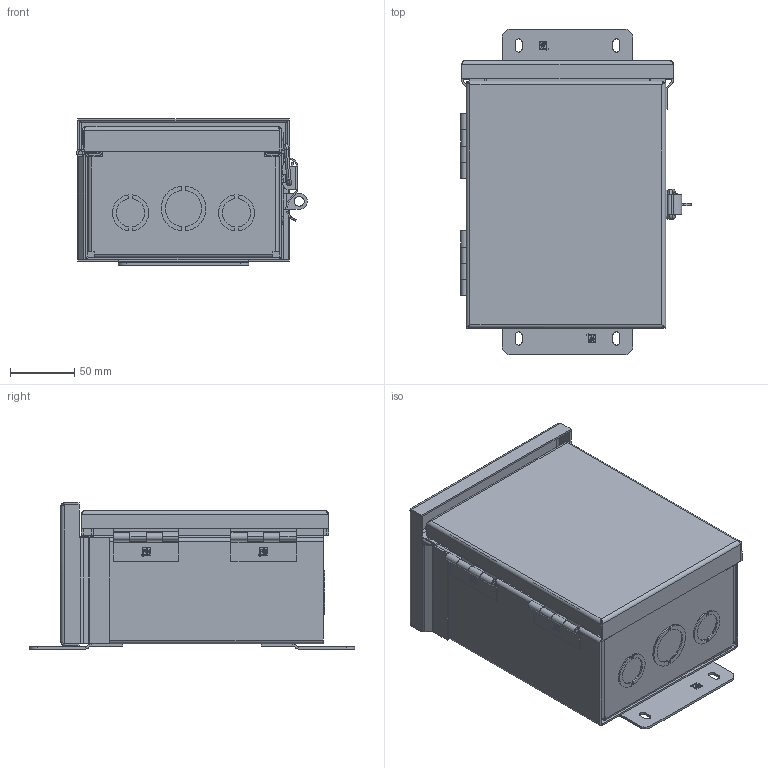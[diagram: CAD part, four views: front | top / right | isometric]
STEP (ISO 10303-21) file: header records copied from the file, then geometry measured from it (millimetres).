
FILE_DESCRIPTION (( 'STEP AP203' ), '1' );
FILE_NAME ('a8r64hcr.STEP', '2012-01-31T20:31:11', ( 'Hoffman User' ), ( 'Hoffman Enclosures' ), 'SwSTEP 2.0', 'SolidWorks 2010', '' );
FILE_SCHEMA (( 'CONFIG_CONTROL_DESIGN' ));
Length unit declared in the file: inch
Products named in the file (19): 89049555; 89049554; 89049553; 66162003; 54106001; 43107001; 43110001; 66162007; 89049480; 89049479; 89049478_89047041; 43108001_CLOSE; 43372002; 89051783_Closed; 87921482; 43373001; 43374002; 89055726_Closed; a8r64hcr
Assembly tree (23 placements, depth 5):
  a8r64hcr
    89055726_Closed
      43107001  x2
      43373001
      54106001  x4
      43110001
      89051783_Closed
        66162007
        43108001_CLOSE  x2
          89049480
          89049478_89047041
          89049479
        43372002
      87921482
      43374002
      66162003
        89049553
        89049554
        89049555
Bounding box: 179.83 x 253.87 x 114.07 mm (x, y, z)
Volume: 280641.6 mm3; surface area: 400834.2 mm2
Topology: 21 solids, 21 shells, 1148 faces, 2764 edges, 1722 vertices
Faces by surface type: plane 607, bspline 221, cylinder 220, sphere 44, torus 32, cone 24
Entity records: 30069 total; most frequent: CARTESIAN_POINT 9728, ORIENTED_EDGE 3860, DIRECTION 3514, EDGE_CURVE 1930, LINE 1238, VECTOR 1238, VERTEX_POINT 1180, AXIS2_PLACEMENT_3D 1138
